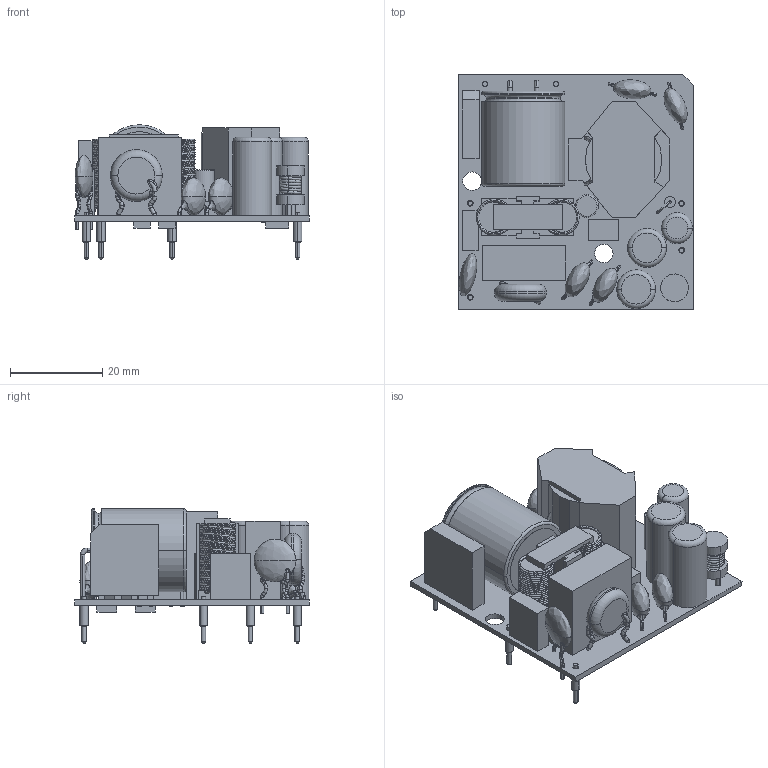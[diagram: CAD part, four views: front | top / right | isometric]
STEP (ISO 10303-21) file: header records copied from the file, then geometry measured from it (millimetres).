
FILE_DESCRIPTION (( 'STEP AP203' ), '1' );
FILE_NAME ('CFM41SXXX-1130805.STEP', '2024-08-06T03:05:02', ( 'cincon' ), ( '' ), 'SwSTEP 2.0', 'SolidWorks 2020', '' );
FILE_SCHEMA (( 'CONFIG_CONTROL_DESIGN' ));
Length unit declared in the file: millimetre
Products named in the file (10): 電感; CFM41S_PCB01; 變壓器; CFM41SXXX-1130805; 電感-雙線圈; PIN; CFM40M UZ2 990210; CFM40M UZ1 990210; 電容(18X21.5); CFM40M CY1 990210
Assembly tree (17 placements, depth 2):
  CFM41SXXX-1130805
    CFM41S_PCB01
    CFM40M CY1 990210  x4
    CFM40M UZ2 990210
    電感
    變壓器
    PIN  x6
    CFM40M UZ1 990210
    電容(18X21.5)
    電感-雙線圈
Bounding box: 50.8 x 50.8 x 29.09 mm (x, y, z)
Volume: 25832.8 mm3; surface area: 18651.8 mm2
Topology: 17 solids, 17 shells, 713 faces, 2165 edges, 1424 vertices
Faces by surface type: plane 286, cylinder 217, bspline 112, torus 86, cone 12
Entity records: 61388 total; most frequent: CARTESIAN_POINT 44145, ORIENTED_EDGE 3730, DIRECTION 2862, EDGE_CURVE 1865, VERTEX_POINT 1242, AXIS2_PLACEMENT_3D 1043, EDGE_LOOP 813, LINE 776
